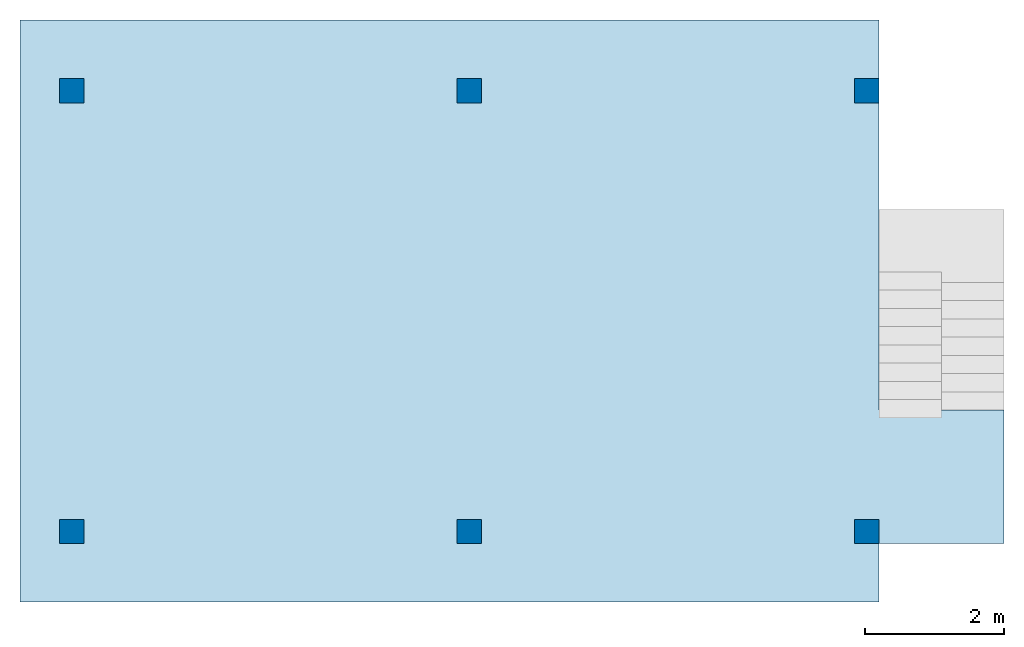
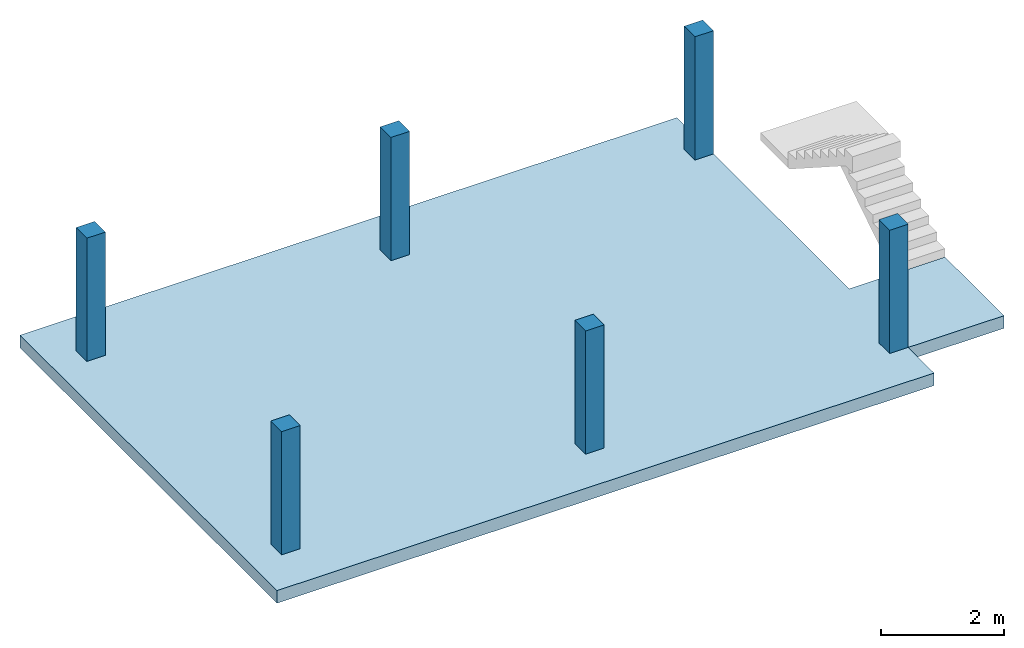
# One storey, part 1 of 2: 6 columns, 1 slab.
"""IFC2X3 building model written with IfcOpenShell, lengths in metres."""

from ifc_helpers import new_model, entity, si_unit, converted_unit, money_unit, direction, frame, origin_with_axes, origin_2d_with_axis, place, context, subcontext, project, spatial, polyline, rectangle, outline, extrude, material, layer, layer_set, layer_usage, type_object, element, save


model = new_model("IFC2X3")

# Units and contexts
model_context = context("Model", 3, precision=1e-05, world=origin_with_axes(), true_north=direction((0.0, 1.0)))
body_context = subcontext(model_context, "Body", "Model", "MODEL_VIEW")
ifc_project = project(units=[si_unit("LENGTHUNIT", "METRE"), si_unit("AREAUNIT", "SQUARE_METRE"), si_unit("VOLUMEUNIT", "CUBIC_METRE"), converted_unit("PLANEANGLEUNIT", "DEGREE", entity("IfcPlaneAngleMeasure", 0.0174532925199), si_unit("PLANEANGLEUNIT", "RADIAN"), dimensions=[0, 0, 0, 0, 0, 0, 0]), si_unit("SOLIDANGLEUNIT", "STERADIAN"), money_unit("EUR"), converted_unit("TIMEUNIT", "Year", entity("IfcTimeMeasure", 31556926.0), si_unit("TIMEUNIT", "SECOND"), dimensions=[0, 0, 0, 0, 0, 0, 0]), si_unit("MASSUNIT", "GRAM"), si_unit("THERMODYNAMICTEMPERATUREUNIT", "DEGREE_CELSIUS"), si_unit("LUMINOUSINTENSITYUNIT", "LUMEN")], contexts=[model_context])

# Site, building, storey
site_placement = place(None, origin_with_axes())
site = spatial("IfcSite", under=ifc_project, at=site_placement, Name="Site", CompositionType="ELEMENT")
building_placement = place(site_placement, origin_with_axes())
building = spatial("IfcBuilding", under=site, at=building_placement, Name="Bâtiment", CompositionType="ELEMENT")
storey_placement = place(building_placement, frame((0.0, 0.0, 2.7), z_axis=(0.0, 0.0, 1.0), x_axis=(1.0, 0.0, 0.0)))
storey = spatial("IfcBuildingStorey", under=building, at=storey_placement, Name="R+1", CompositionType="ELEMENT", Elevation=2.7)

# Columns
ifc_material = material(Name="GENERIQUE - STRUCTURE")
column_type = type_object("IfcColumnType", Name="GENERIQUE - STRUCTURE 350 x 350", PredefinedType="NOTDEFINED")
for number, where, z_axis, x_axis in (
    (1, (10.2910297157, 10.5620559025, 0.0), (0.0, 0.0, 1.0), (1.0, 0.0, 0.0)),
    (2, (21.7210297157, 10.5620559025, 0.0), (0.0, 0.0, 1.0), (1.0, 0.0, 0.0)),
    (3, (16.0060297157, 10.5620559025, 0.0), (0.0, 0.0, 1.0), (1.0, 0.0, 0.0)),
    (4, (16.0060297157, 16.9020559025, 0.0), (0.0, 0.0, 1.0), (1.0, 0.0, 0.0)),
    (5, (10.2910297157, 16.9020559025, 0.0), (0.0, 0.0, 1.0), (1.0, 0.0, 0.0)),
    (6, (21.7210297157, 16.9020559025, 0.0), (0.0, 0.0, 1.0), (1.0, 0.0, 0.0)),
):
    element("IfcColumn", number, at=place(storey_placement, frame(where, z_axis=z_axis, x_axis=x_axis)), inside=storey, type_object=column_type, material=ifc_material, Name="PotB-001", ObjectType="GENERIQUE - STRUCTURE 350 x 350", context=body_context, shape_type="SweptSolid", body=[
        extrude(rectangle(XDim=0.35, YDim=0.35, at=origin_2d_with_axis()), origin_with_axes(), (0.0, 0.0, 1.0), 2.45),
    ])

# Slab
ifc_layer = layer(ifc_material, 0.25, ventilated="UNKNOWN")
ifc_layer_set = layer_set([ifc_layer], Name="GENERIQUE - STRUCTURE 0.25")
ifc_layer_usage = layer_usage(ifc_layer_set, "AXIS3", "NEGATIVE", 0.25)
slab_type = type_object("IfcSlabType", Name="GENERIQUE - STRUCTURE 250", PredefinedType="FLOOR")
slab_placement = place(storey_placement, frame((9.54602971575, 9.54705590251, 0.0), z_axis=(0.0, 0.0, 1.0), x_axis=(1.0, 0.0, 0.0)))
element("IfcSlab", 7, at=slab_placement, inside=storey, type_object=slab_type, material=ifc_layer_usage, Name="DC_BA_Isol-002", PredefinedType="FLOOR", context=body_context, shape_type="SweptSolid", body=[
    extrude(outline(polyline([(0.0, 0.0), (12.35, 0.0), (12.35, 0.84), (14.15, 0.84), (14.15, 2.76), (12.35, 2.76), (12.35, 8.37), (0.0, 8.37), (0.0, 0.0)])), frame((0.0, 0.0, -0.25), z_axis=(0.0, 0.0, 1.0), x_axis=(1.0, 0.0, 0.0)), (0.0, 0.0, 1.0), 0.25),
])

save(model, "model.ifc")
